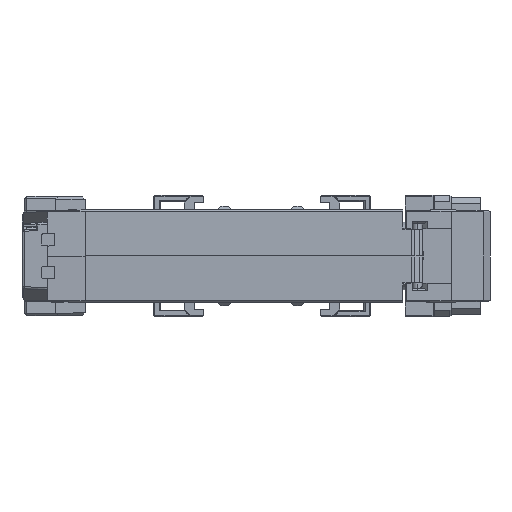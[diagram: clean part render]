
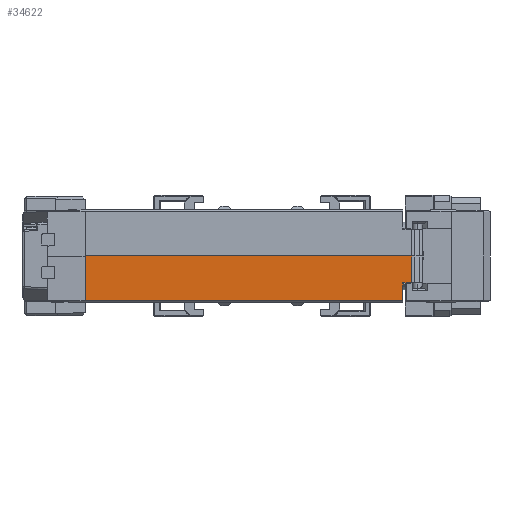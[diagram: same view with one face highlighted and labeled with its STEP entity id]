
A CAD part, left-side view. The second image highlights one B-rep face of the part: STEP entity #34622.
In plain terms, the highlighted planar face has unit normal (-1, 0, -0.018).
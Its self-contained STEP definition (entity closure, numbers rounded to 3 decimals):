
#123 = LINE ( 'NONE', #24780, #39754 ) ;
#4749 = DIRECTION ( 'NONE',  ( -0.017, 0., 1. ) ) ;
#5743 = VERTEX_POINT ( 'NONE', #93954 ) ;
#7775 = LINE ( 'NONE', #53414, #119968 ) ;
#10241 = AXIS2_PLACEMENT_3D ( 'NONE', #15641, #27627, #117400 ) ;
#15213 = LINE ( 'NONE', #96037, #95170 ) ;
#15641 = CARTESIAN_POINT ( 'NONE',  ( -73.2, -6., 0. ) ) ;
#18314 = CARTESIAN_POINT ( 'NONE',  ( -73.2, -4.705, 0. ) ) ;
#18538 = EDGE_CURVE ( 'NONE', #80899, #127831, #7775, .T. ) ;
#24780 = CARTESIAN_POINT ( 'NONE',  ( -72.877, -1., -18.491 ) ) ;
#26461 = EDGE_CURVE ( 'NONE', #5743, #86456, #15213, .T. ) ;
#27627 = DIRECTION ( 'NONE',  ( -1., 0., -0.017 ) ) ;
#33770 = VECTOR ( 'NONE', #4749, 1000. ) ;
#34622 = ADVANCED_FACE ( 'NONE', ( #116651 ), #50830, .T. ) ;
#39754 = VECTOR ( 'NONE', #58434, 1000. ) ;
#40625 = CARTESIAN_POINT ( 'NONE',  ( -73.2, -4.705, 0. ) ) ;
#46960 = EDGE_CURVE ( 'NONE', #51506, #80899, #87654, .T. ) ;
#48923 = LINE ( 'NONE', #40625, #33770 ) ;
#49030 = EDGE_CURVE ( 'NONE', #5743, #127831, #123, .T. ) ;
#50830 = PLANE ( 'NONE',  #10241 ) ;
#51506 = VERTEX_POINT ( 'NONE', #55938 ) ;
#53414 = CARTESIAN_POINT ( 'NONE',  ( -73.2, -1., 0. ) ) ;
#55938 = CARTESIAN_POINT ( 'NONE',  ( -73.006, -4.705, -11.1 ) ) ;
#58434 = DIRECTION ( 'NONE',  ( 0., -1., 0. ) ) ;
#58679 = ORIENTED_EDGE ( 'NONE', *, *, #49030, .T. ) ;
#66394 = EDGE_CURVE ( 'NONE', #51506, #105336, #48923, .T. ) ;
#68390 = LINE ( 'NONE', #112534, #80470 ) ;
#71650 = ORIENTED_EDGE ( 'NONE', *, *, #46960, .F. ) ;
#76354 = ORIENTED_EDGE ( 'NONE', *, *, #112039, .F. ) ;
#80470 = VECTOR ( 'NONE', #113275, 1000. ) ;
#80899 = VERTEX_POINT ( 'NONE', #94872 ) ;
#81603 = CARTESIAN_POINT ( 'NONE',  ( -73.2, 130., 0. ) ) ;
#82585 = DIRECTION ( 'NONE',  ( -0.017, 0., 1. ) ) ;
#84682 = VECTOR ( 'NONE', #132563, 1000. ) ;
#86456 = VERTEX_POINT ( 'NONE', #81603 ) ;
#87654 = LINE ( 'NONE', #133278, #84682 ) ;
#93954 = CARTESIAN_POINT ( 'NONE',  ( -72.877, 130., -18.491 ) ) ;
#94872 = CARTESIAN_POINT ( 'NONE',  ( -73.006, -1., -11.1 ) ) ;
#95170 = VECTOR ( 'NONE', #82585, 1000. ) ;
#96037 = CARTESIAN_POINT ( 'NONE',  ( -73.2, 130., 0. ) ) ;
#99028 = DIRECTION ( 'NONE',  ( 0.017, 0., -1. ) ) ;
#105336 = VERTEX_POINT ( 'NONE', #18314 ) ;
#107058 = EDGE_LOOP ( 'NONE', ( #118074, #76354, #145150, #58679, #122310, #71650 ) ) ;
#111464 = CARTESIAN_POINT ( 'NONE',  ( -72.877, -1., -18.491 ) ) ;
#112039 = EDGE_CURVE ( 'NONE', #86456, #105336, #68390, .T. ) ;
#112534 = CARTESIAN_POINT ( 'NONE',  ( -73.2, -6., 0. ) ) ;
#113275 = DIRECTION ( 'NONE',  ( 0., -1., 0. ) ) ;
#116651 = FACE_OUTER_BOUND ( 'NONE', #107058, .T. ) ;
#117400 = DIRECTION ( 'NONE',  ( -0.017, 0., 1. ) ) ;
#118074 = ORIENTED_EDGE ( 'NONE', *, *, #66394, .T. ) ;
#119968 = VECTOR ( 'NONE', #99028, 1000. ) ;
#122310 = ORIENTED_EDGE ( 'NONE', *, *, #18538, .F. ) ;
#127831 = VERTEX_POINT ( 'NONE', #111464 ) ;
#132563 = DIRECTION ( 'NONE',  ( 0., 1., 0. ) ) ;
#133278 = CARTESIAN_POINT ( 'NONE',  ( -73.006, -4.705, -11.1 ) ) ;
#145150 = ORIENTED_EDGE ( 'NONE', *, *, #26461, .F. ) ;
